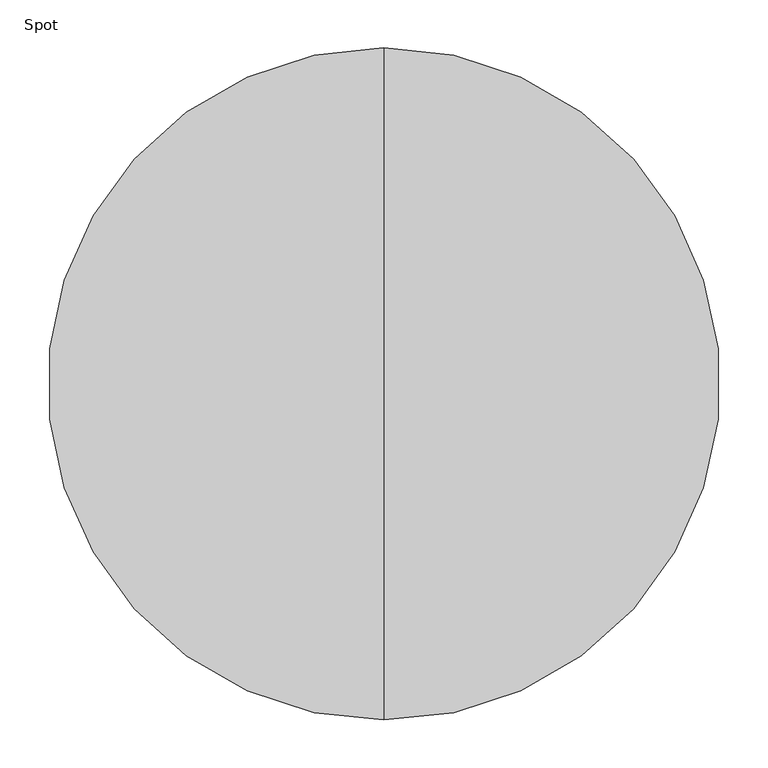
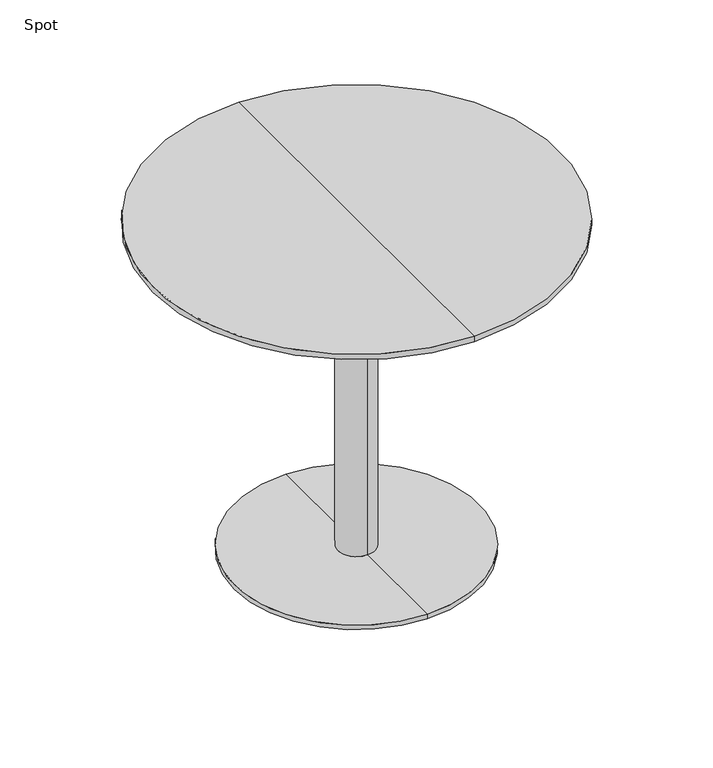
"""IFC4 building model written with IfcOpenShell, lengths in millimetres: furniture geometry, Spot : ø70x60."""

from ifc_helpers import new_model, si_unit, frame, origin, place, context, project, spatial, polyline, circle_curve, source, transform, mapped, element, save
from ifc_brep_helpers import plane_surface, cylinder_surface, revolved_surface, advanced_brep


def spot_8f7e254e(model_context):
    return source(origin(), model_context, "Body", "AdvancedBrep", [
        advanced_brep(
        [(0.0, 350.0, 600.0), (0.0, -350.0, 600.0), (0.0, 0.0, 600.0), (0.0, 350.0, 590.25), (0.0, -350.0, 590.25), (0.0, 304.2823776, 578.0), (0.0, -304.2823776, 578.0), (0.0, 0.0, 578.0)],
        [
            (0, 1, circle_curve(frame((0.0, 0.0, 600.0), z_axis=(0.0, 0.0, 1.0), x_axis=(0.0, -1.0, 0.0)), 350.0)),
            (1, 2),
            (2, 0),
            (1, 0, circle_curve(frame((0.0, 0.0, 600.0), z_axis=(0.0, 0.0, 1.0), x_axis=(0.0, -1.0, 0.0)), 350.0)),
            (3, 4, circle_curve(frame((0.0, 0.0, 590.25), z_axis=(0.0, 0.0, 1.0), x_axis=(0.0, -1.0, 0.0)), 350.0)),
            (4, 1),
            (0, 3),
            (4, 3, circle_curve(frame((0.0, 0.0, 590.25), z_axis=(0.0, 0.0, 1.0), x_axis=(0.0, -1.0, 0.0)), 350.0)),
            (5, 6, circle_curve(frame((0.0, 0.0, 578.0), z_axis=(0.0, 0.0, 1.0), x_axis=(0.0, -1.0, 0.0)), 304.2823776)),
            (6, 4),
            (3, 5),
            (6, 5, circle_curve(frame((0.0, 0.0, 578.0), z_axis=(0.0, 0.0, 1.0), x_axis=(0.0, -1.0, 0.0)), 304.2823776)),
            (7, 6),
            (5, 7),
        ],
        [
            plane_surface(frame((0.0, 0.0, 600.0), z_axis=(0.0, 0.0, 1.0), x_axis=(0.0, -1.0, 0.0))),
            cylinder_surface(frame((0.0, 0.0, 680.0), z_axis=(0.0, 0.0, -1.0), x_axis=(0.0, -1.0, 0.0)), 350.0),
            revolved_surface(polyline([(0.0, -350.0, 590.25), (0.0, -304.2823776, 578.0)]), (0.0, 0.0, 680.0), (0.0, 0.0, -1.0)),
            plane_surface(frame((0.0, 0.0, 578.0), z_axis=(0.0, 0.0, -1.0), x_axis=(0.0, -1.0, 0.0))),
        ],
        [
            (0, [[1, 2, 3]]),
            (0, [[4, -3, -2]]),
            (1, [[5, 6, -1, 7]]),
            (1, [[8, -7, -4, -6]]),
            (2, [[9, 10, -5, 11]]),
            (2, [[12, -11, -8, -10]]),
            (3, [[13, -9, 14]]),
            (3, [[-14, -12, -13]]),
        ],
    ),
        advanced_brep(
        [(0.0, 32.0, 10.0), (0.0, -32.0, 10.0), (0.0, -32.0, 547.406916), (0.0, 32.0, 547.406916), (0.0, 210.0, 10.0), (0.0, -210.0, 10.0), (0.0, 210.0, 2.0), (0.0, -210.0, 2.0), (0.0, 0.0, 2.0), (0.0, 150.0, 578.0), (0.0, -150.0, 578.0), (0.0, 0.0, 578.0), (0.0, 150.0, 566.7213673), (0.0, -150.0, 566.7213673)],
        [
            (0, 1, circle_curve(frame((0.0, 0.0, 10.0), z_axis=(0.0, 0.0, 1.0), x_axis=(0.0, -1.0, 0.0)), 32.0)),
            (1, 2),
            (2, 3, circle_curve(frame((0.0, 0.0, 547.406916), z_axis=(0.0, 0.0, -1.0), x_axis=(0.0, -1.0, 0.0)), 32.0)),
            (3, 0),
            (1, 0, circle_curve(frame((0.0, 0.0, 10.0), z_axis=(0.0, 0.0, 1.0), x_axis=(0.0, -1.0, 0.0)), 32.0)),
            (3, 2, circle_curve(frame((0.0, 0.0, 547.406916), z_axis=(0.0, 0.0, -1.0), x_axis=(0.0, -1.0, 0.0)), 32.0)),
            (4, 5, circle_curve(frame((0.0, 0.0, 10.0), z_axis=(0.0, 0.0, 1.0), x_axis=(0.0, -1.0, 0.0)), 210.0)),
            (5, 1),
            (0, 4),
            (5, 4, circle_curve(frame((0.0, 0.0, 10.0), z_axis=(0.0, 0.0, 1.0), x_axis=(0.0, -1.0, 0.0)), 210.0)),
            (6, 7, circle_curve(frame((0.0, 0.0, 2.0), z_axis=(0.0, 0.0, 1.0), x_axis=(0.0, -1.0, 0.0)), 210.0)),
            (7, 5),
            (4, 6),
            (7, 6, circle_curve(frame((0.0, 0.0, 2.0), z_axis=(0.0, 0.0, 1.0), x_axis=(0.0, -1.0, 0.0)), 210.0)),
            (8, 7),
            (6, 8),
            (9, 10, circle_curve(frame((0.0, 0.0, 578.0), z_axis=(0.0, 0.0, 1.0), x_axis=(0.0, -1.0, 0.0)), 150.0)),
            (10, 11),
            (11, 9),
            (10, 9, circle_curve(frame((0.0, 0.0, 578.0), z_axis=(0.0, 0.0, 1.0), x_axis=(0.0, -1.0, 0.0)), 150.0)),
            (12, 13, circle_curve(frame((0.0, 0.0, 566.7213673), z_axis=(0.0, 0.0, 1.0), x_axis=(0.0, -1.0, 0.0)), 150.0)),
            (13, 10),
            (9, 12),
            (13, 12, circle_curve(frame((0.0, 0.0, 566.7213673), z_axis=(0.0, 0.0, 1.0), x_axis=(0.0, -1.0, 0.0)), 150.0)),
            (2, 13),
            (12, 3),
        ],
        [
            cylinder_surface(frame((0.0, 0.0, 940.0), z_axis=(0.0, 0.0, -1.0), x_axis=(0.0, -1.0, 0.0)), 32.0),
            plane_surface(frame((0.0, 0.0, 10.0), z_axis=(0.0, 0.0, 1.0), x_axis=(0.0, -1.0, 0.0))),
            cylinder_surface(frame((0.0, 0.0, 940.0), z_axis=(0.0, 0.0, -1.0), x_axis=(0.0, -1.0, 0.0)), 210.0),
            plane_surface(frame((0.0, 0.0, 2.0), z_axis=(0.0, 0.0, -1.0), x_axis=(0.0, -1.0, 0.0))),
            plane_surface(frame((0.0, 0.0, 578.0), z_axis=(0.0, 0.0, 1.0), x_axis=(0.0, -1.0, 0.0))),
            cylinder_surface(frame((0.0, 0.0, 940.0), z_axis=(0.0, 0.0, -1.0), x_axis=(0.0, -1.0, 0.0)), 150.0),
            revolved_surface(polyline([(0.0, -150.0, 566.7213673), (0.0, -32.0, 547.406916)]), (0.0, 0.0, 940.0), (0.0, 0.0, -1.0)),
        ],
        [
            (0, [[1, 2, 3, 4]]),
            (0, [[5, -4, 6, -2]]),
            (1, [[7, 8, -1, 9]]),
            (1, [[10, -9, -5, -8]]),
            (2, [[11, 12, -7, 13]]),
            (2, [[14, -13, -10, -12]]),
            (3, [[15, -11, 16]]),
            (3, [[-16, -14, -15]]),
            (4, [[17, 18, 19]]),
            (4, [[20, -19, -18]]),
            (5, [[21, 22, -17, 23]]),
            (5, [[24, -23, -20, -22]]),
            (6, [[-3, 25, -21, 26]]),
            (6, [[-6, -26, -24, -25]]),
        ],
    ),
    ])


if __name__ == "__main__":
    model = new_model("IFC4")
    model_context = context("Model", 3, world=origin())
    ifc_project = project(units=[si_unit("LENGTHUNIT", "METRE", prefix="MILLI")], contexts=[model_context])
    site = spatial("IfcSite", under=ifc_project)
    building = spatial("IfcBuilding", under=site)
    placement = place(None, origin())
    spot_shape = spot_8f7e254e(model_context)
    element("IfcFurniture", 1, ObjectType="Spot : ø70x60", at=placement, inside=building, context=model_context, shape_type="MappedRepresentation", body=[
        mapped(spot_shape, transform((0.0, 0.0, 0.0), x_axis=(1.0, 0.0, 0.0), y_axis=(0.0, 1.0, 0.0), z_axis=(0.0, 0.0, 1.0))),
    ])
    save(model, "model.ifc")
